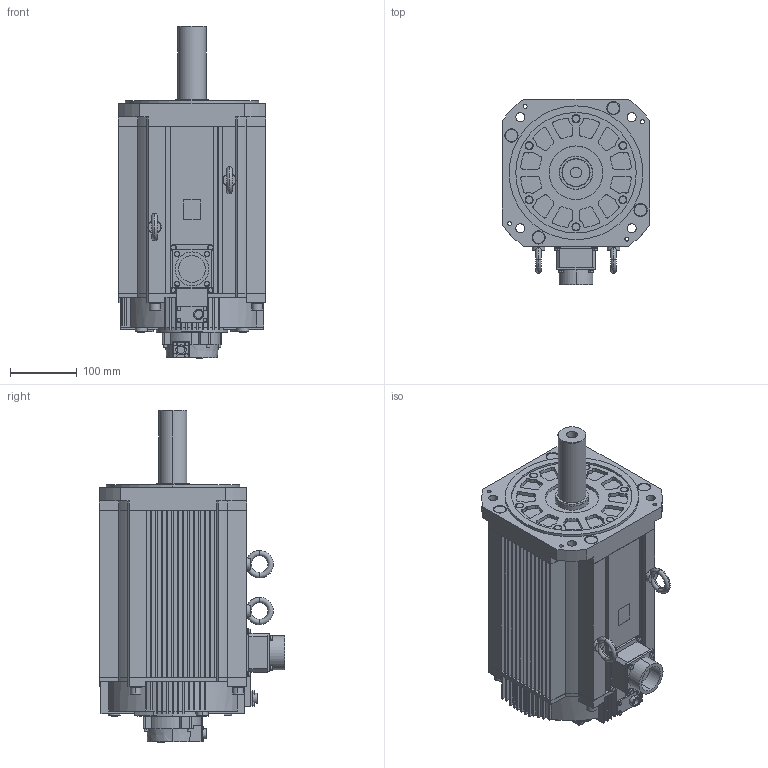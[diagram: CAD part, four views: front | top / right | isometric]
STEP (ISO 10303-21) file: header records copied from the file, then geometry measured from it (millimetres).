
FILE_DESCRIPTION (( 'STEP AP214' ), '1' );
FILE_NAME ('sgmxg_1aaua8ca2.STEP', '2022-05-19T01:27:48', ( '' ), ( '' ), 'SwSTEP 2.0', 'SolidWorks 2016', '' );
FILE_SCHEMA (( 'AUTOMOTIVE_DESIGN' ));
Length unit declared in the file: metre
Products named in the file (1): sgmxg_1aaua8ca2
Bounding box: 220 x 277.06 x 496.2 mm (x, y, z)
Volume: 13807710 mm3; surface area: 638933.4 mm2
Topology: 1 solids, 1 shells, 1294 faces, 3576 edges, 2370 vertices
Faces by surface type: plane 873, cylinder 402, cone 11, torus 8
Entity records: 42800 total; most frequent: CARTESIAN_POINT 7435, ORIENTED_EDGE 7152, DIRECTION 7117, EDGE_CURVE 3576, VECTOR 2597, LINE 2597, VERTEX_POINT 2370, AXIS2_PLACEMENT_3D 2260
